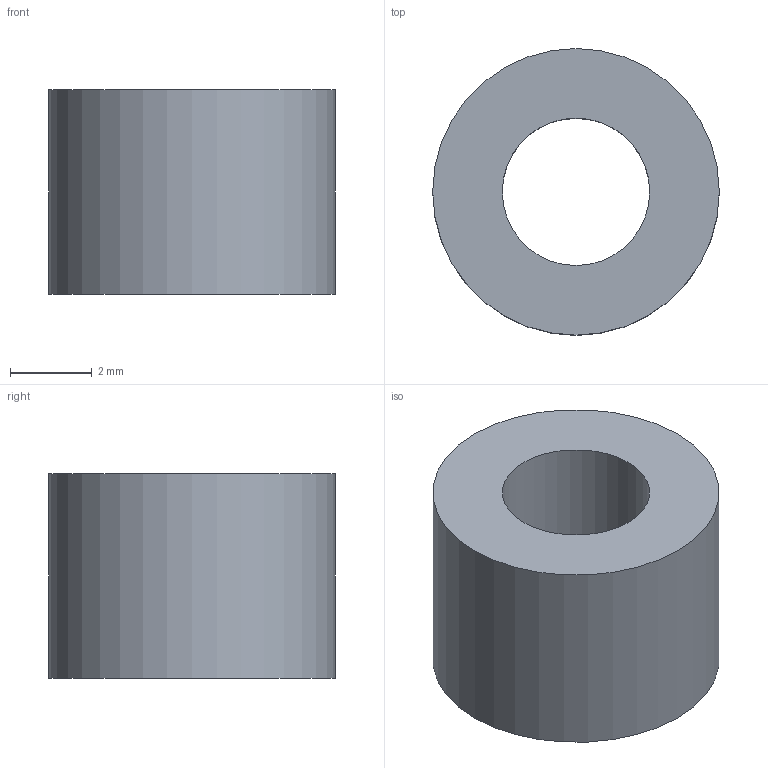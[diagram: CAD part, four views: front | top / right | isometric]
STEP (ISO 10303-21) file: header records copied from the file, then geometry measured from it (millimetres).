
FILE_DESCRIPTION(('Open CASCADE Model'),'2;1');
FILE_NAME('Open CASCADE Shape Model','2026-10-06T17:18:00',('Author'),( 'Open CASCADE'),'Open CASCADE STEP processor 7.8','Open CASCADE 7.8' ,'Unknown');
FILE_SCHEMA(('AUTOMOTIVE_DESIGN { 1 0 10303 214 1 1 1 1 }'));
Length unit declared in the file: millimetre
Products named in the file (1): Open CASCADE STEP translator 7.8 16
Bounding box: 7 x 7 x 5 mm (x, y, z)
Volume: 141.5 mm3; surface area: 223.1 mm2
Topology: 1 solids, 1 shells, 4 faces, 6 edges, 4 vertices
Faces by surface type: cylinder 2, plane 2
Full cylindrical faces by diameter (mm): 3.6 x1, 7 x1
Entity records: 186 total; most frequent: DIRECTION 32, CARTESIAN_POINT 27, ORIENTED_EDGE 12, PCURVE 12, DEFINITIONAL_REPRESENTATION 12, LINE 10, VECTOR 10, AXIS2_PLACEMENT_3D 9
